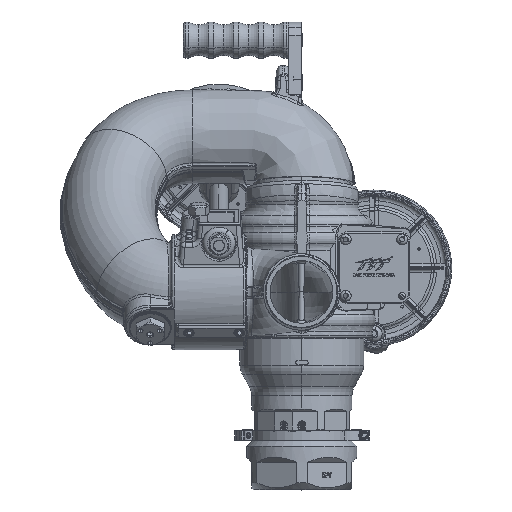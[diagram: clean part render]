
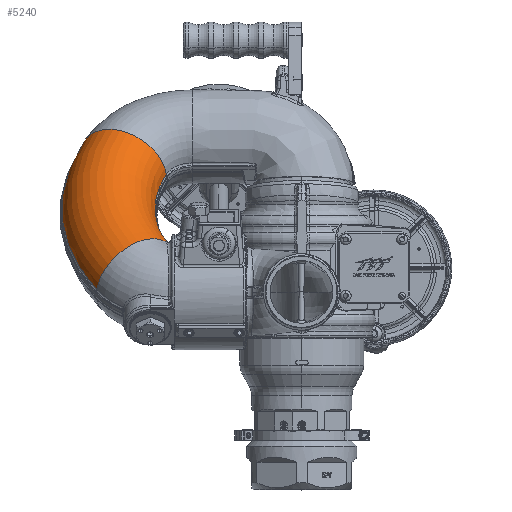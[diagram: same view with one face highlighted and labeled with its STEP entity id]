
A CAD part, top view. The second image highlights one B-rep face of the part: STEP entity #5240.
In plain terms, the highlighted toroidal (fillet/blend) face has major radius 177.8 mm and minor radius 47.625 mm.
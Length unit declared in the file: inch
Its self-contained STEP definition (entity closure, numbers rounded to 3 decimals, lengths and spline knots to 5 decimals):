
#603 = TOROIDAL_SURFACE ( 'NONE', #30339, 7., 1.875 ) ;
#1168 = DIRECTION ( 'NONE',  ( 0., -0.669, 0.743 ) ) ;
#3940 = EDGE_CURVE ( 'NONE', #96465, #93543, #87959, .T. ) ;
#5240 = ADVANCED_FACE ( 'NONE', ( #127721 ), #603, .T. ) ;
#8524 = CARTESIAN_POINT ( 'NONE',  ( -5.31335, 3.56913, 5.16289 ) ) ;
#9225 = CIRCLE ( 'NONE', #99622, 1.875 ) ;
#10370 = CIRCLE ( 'NONE', #126591, 1.875 ) ;
#10670 = CARTESIAN_POINT ( 'NONE',  ( -5.38262, 3.82115, 5.6726 ) ) ;
#11729 = B_SPLINE_CURVE_WITH_KNOTS ( 'NONE', 3,
 ( #73648, #21453, #86357, #110346 ),
 .UNSPECIFIED., .F., .F.,
 ( 4, 4 ),
 ( 0., 0.004 ),
 .UNSPECIFIED. ) ;
#12071 = ORIENTED_EDGE ( 'NONE', *, *, #67229, .T. ) ;
#12985 = AXIS2_PLACEMENT_3D ( 'NONE', #141592, #153268, #1168 ) ;
#20678 = CARTESIAN_POINT ( 'NONE',  ( -5.40846, 6.53053, 1.87393 ) ) ;
#21453 = CARTESIAN_POINT ( 'NONE',  ( -5.41745, 3.8233, 6.26025 ) ) ;
#22867 = CARTESIAN_POINT ( 'NONE',  ( -5.39124, 3.83484, 5.73747 ) ) ;
#27241 = ORIENTED_EDGE ( 'NONE', *, *, #84504, .T. ) ;
#28725 = EDGE_CURVE ( 'NONE', #96465, #100602, #9225, .T. ) ;
#29251 = VERTEX_POINT ( 'NONE', #94844 ) ;
#30339 = AXIS2_PLACEMENT_3D ( 'NONE', #75541, #67187, #141628 ) ;
#33974 = CARTESIAN_POINT ( 'NONE',  ( -5.35202, 3.75118, 5.46301 ) ) ;
#35599 = CARTESIAN_POINT ( 'NONE',  ( -5.3295, 3.6723, 5.30681 ) ) ;
#43351 = ORIENTED_EDGE ( 'NONE', *, *, #3940, .T. ) ;
#47289 = CARTESIAN_POINT ( 'NONE',  ( -5.41975, 3.84606, 6.11226 ) ) ;
#48372 = CARTESIAN_POINT ( 'NONE',  ( -5.31998, 3.62431, 5.2331 ) ) ;
#55530 = CARTESIAN_POINT ( 'NONE',  ( -0.718, 5.11304, 3.44106 ) ) ;
#58313 = VERTEX_POINT ( 'NONE', #109548 ) ;
#58420 = EDGE_CURVE ( 'NONE', #29251, #148969, #104836, .T. ) ;
#61173 = CARTESIAN_POINT ( 'NONE',  ( -5.38843, 3.83068, 5.71581 ) ) ;
#66730 = ORIENTED_EDGE ( 'NONE', *, *, #58420, .T. ) ;
#67187 = DIRECTION ( 'NONE',  ( 0., -0.743, -0.669 ) ) ;
#67229 = EDGE_CURVE ( 'NONE', #93543, #58313, #10370, .T. ) ;
#72862 = EDGE_LOOP ( 'NONE', ( #84960, #66730, #27241, #127273, #43351, #12071 ) ) ;
#72867 = CARTESIAN_POINT ( 'NONE',  ( -5.37961, 3.81578, 5.65102 ) ) ;
#73648 = CARTESIAN_POINT ( 'NONE',  ( -5.41642, 3.81349, 6.31177 ) ) ;
#75541 = CARTESIAN_POINT ( 'NONE',  ( -0.718, 4.91629, 3.26391 ) ) ;
#75958 = CARTESIAN_POINT ( 'NONE',  ( -8.18027, 1.92169, 6.98541 ) ) ;
#84481 = CARTESIAN_POINT ( 'NONE',  ( -5.39928, 3.84554, 5.80264 ) ) ;
#84504 = EDGE_CURVE ( 'NONE', #148969, #100602, #134882, .T. ) ;
#84566 = CARTESIAN_POINT ( 'NONE',  ( -6.61621, 2.39384, 6.06538 ) ) ;
#84960 = ORIENTED_EDGE ( 'NONE', *, *, #102996, .T. ) ;
#85585 = CARTESIAN_POINT ( 'NONE',  ( -5.41532, 3.85537, 5.97848 ) ) ;
#86357 = CARTESIAN_POINT ( 'NONE',  ( -5.41843, 3.83215, 6.20855 ) ) ;
#87959 = CIRCLE ( 'NONE', #99449, 8.85622 ) ;
#93543 = VERTEX_POINT ( 'NONE', #75958 ) ;
#94844 = CARTESIAN_POINT ( 'NONE',  ( -5.41936, 3.83995, 6.15668 ) ) ;
#96465 = VERTEX_POINT ( 'NONE', #129249 ) ;
#97904 = CARTESIAN_POINT ( 'NONE',  ( -5.37046, 3.79792, 5.58687 ) ) ;
#99449 = AXIS2_PLACEMENT_3D ( 'NONE', #55530, #144414, #119979 ) ;
#99622 = AXIS2_PLACEMENT_3D ( 'NONE', #101828, #102924, #140094 ) ;
#100602 = VERTEX_POINT ( 'NONE', #20678 ) ;
#101828 = CARTESIAN_POINT ( 'NONE',  ( -7.10024, 6.84021, 1.12718 ) ) ;
#102924 = DIRECTION ( 'NONE',  ( 0.411, 0.61, -0.678 ) ) ;
#102996 = EDGE_CURVE ( 'NONE', #58313, #29251, #11729, .T. ) ;
#104836 = B_SPLINE_CURVE_WITH_KNOTS ( 'NONE', 3,
 ( #122890, #110103, #47289, #124509, #161172, #85585, #160612, #136684, #84481, #22867, #61173, #10670, #72867, #97904, #123431, #33974, #111196, #35599, #48372, #8524 ),
 .UNSPECIFIED., .F., .F.,
 ( 4, 2, 2, 2, 2, 2, 2, 2, 2, 4 ),
 ( 0., 0.00171, 0.00342, 0.00683, 0.01025, 0.01195, 0.01366, 0.01708, 0.02049, 0.02732 ),
 .UNSPECIFIED. ) ;
#109548 = CARTESIAN_POINT ( 'NONE',  ( -5.41642, 3.81349, 6.31177 ) ) ;
#109626 = DIRECTION ( 'NONE',  ( 0., 0.743, 0.669 ) ) ;
#110103 = CARTESIAN_POINT ( 'NONE',  ( -5.41976, 3.84328, 6.1345 ) ) ;
#110346 = CARTESIAN_POINT ( 'NONE',  ( -5.41936, 3.83995, 6.15668 ) ) ;
#111196 = CARTESIAN_POINT ( 'NONE',  ( -5.34611, 3.73289, 5.42323 ) ) ;
#111421 = CARTESIAN_POINT ( 'NONE',  ( -5.31335, 3.56913, 5.16289 ) ) ;
#119979 = DIRECTION ( 'NONE',  ( 0., -0.669, 0.743 ) ) ;
#122890 = CARTESIAN_POINT ( 'NONE',  ( -5.41936, 3.83995, 6.15668 ) ) ;
#123431 = CARTESIAN_POINT ( 'NONE',  ( -5.36419, 3.78367, 5.54475 ) ) ;
#123513 = DIRECTION ( 'NONE',  ( -0.539, 0.564, -0.626 ) ) ;
#124509 = CARTESIAN_POINT ( 'NONE',  ( -5.41904, 3.8505, 6.06765 ) ) ;
#126591 = AXIS2_PLACEMENT_3D ( 'NONE', #84566, #123513, #109626 ) ;
#127273 = ORIENTED_EDGE ( 'NONE', *, *, #28725, .F. ) ;
#127721 = FACE_OUTER_BOUND ( 'NONE', #72862, .T. ) ;
#129249 = CARTESIAN_POINT ( 'NONE',  ( -8.79264, 7.54713, 0.73773 ) ) ;
#134882 = CIRCLE ( 'NONE', #12985, 5.14447 ) ;
#136684 = CARTESIAN_POINT ( 'NONE',  ( -5.40411, 3.8503, 5.84634 ) ) ;
#140094 = DIRECTION ( 'NONE',  ( 0., 0.743, 0.669 ) ) ;
#141592 = CARTESIAN_POINT ( 'NONE',  ( -0.718, 5.1166, 3.44426 ) ) ;
#141628 = DIRECTION ( 'NONE',  ( 0., -0.669, 0.743 ) ) ;
#144414 = DIRECTION ( 'NONE',  ( 0., 0.743, 0.669 ) ) ;
#148969 = VERTEX_POINT ( 'NONE', #111421 ) ;
#153268 = DIRECTION ( 'NONE',  ( 0., -0.743, -0.669 ) ) ;
#160612 = CARTESIAN_POINT ( 'NONE',  ( -5.41213, 3.85522, 5.93425 ) ) ;
#161172 = CARTESIAN_POINT ( 'NONE',  ( -5.41833, 3.85215, 6.04527 ) ) ;
